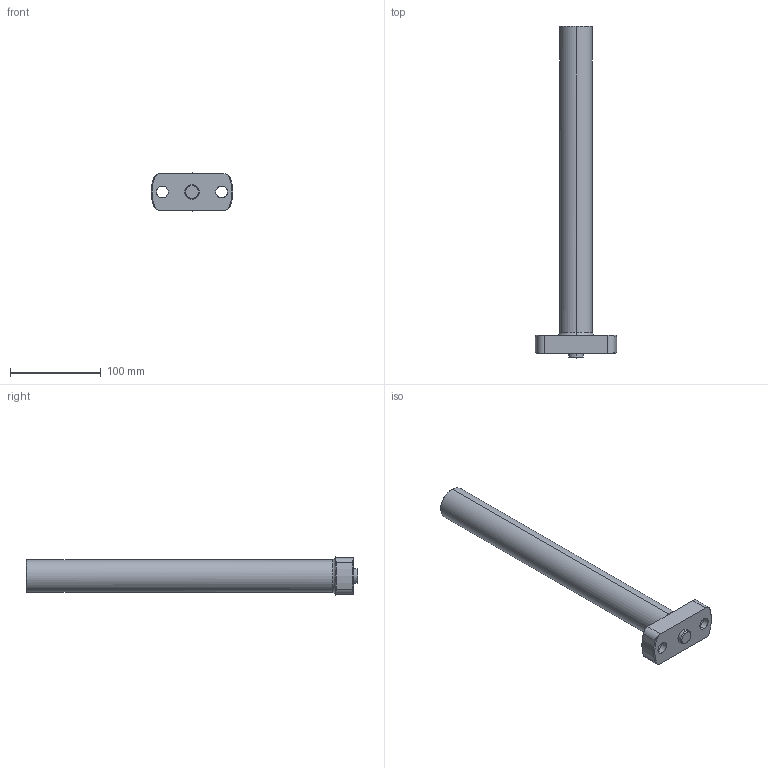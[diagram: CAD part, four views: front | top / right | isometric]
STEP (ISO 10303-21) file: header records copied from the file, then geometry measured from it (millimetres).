
FILE_DESCRIPTION(('CATIA V5 STEP Exchange'),'2;1');
FILE_NAME('C:\Users\Utente\Desktop\IO LAVORO\3D X SITO CF\X 3D SITO CF 27-09-2020\720\720-036 + 360 .stp','2020-10-25T12:50:19+00:00',('none'),('none'),'CATIA Version 5 Release 20 GA (IN-10)','CATIA V5 STEP AP203','none');
FILE_SCHEMA(('CONFIG_CONTROL_DESIGN'));
Length unit declared in the file: millimetre
Products named in the file (1): 720-036 + 360 
Bounding box: 90 x 365 x 42 mm (x, y, z)
Volume: 406265.3 mm3; surface area: 51784.9 mm2
Topology: 1 solids, 1 shells, 39 faces, 100 edges, 66 vertices
Faces by surface type: cylinder 18, plane 11, cone 8, torus 2
Entity records: 1398 total; most frequent: CARTESIAN_POINT 456, ORIENTED_EDGE 200, DIRECTION 148, EDGE_CURVE 100, AXIS2_PLACEMENT_3D 78, VERTEX_POINT 66, EDGE_LOOP 46, ADVANCED_FACE 39
